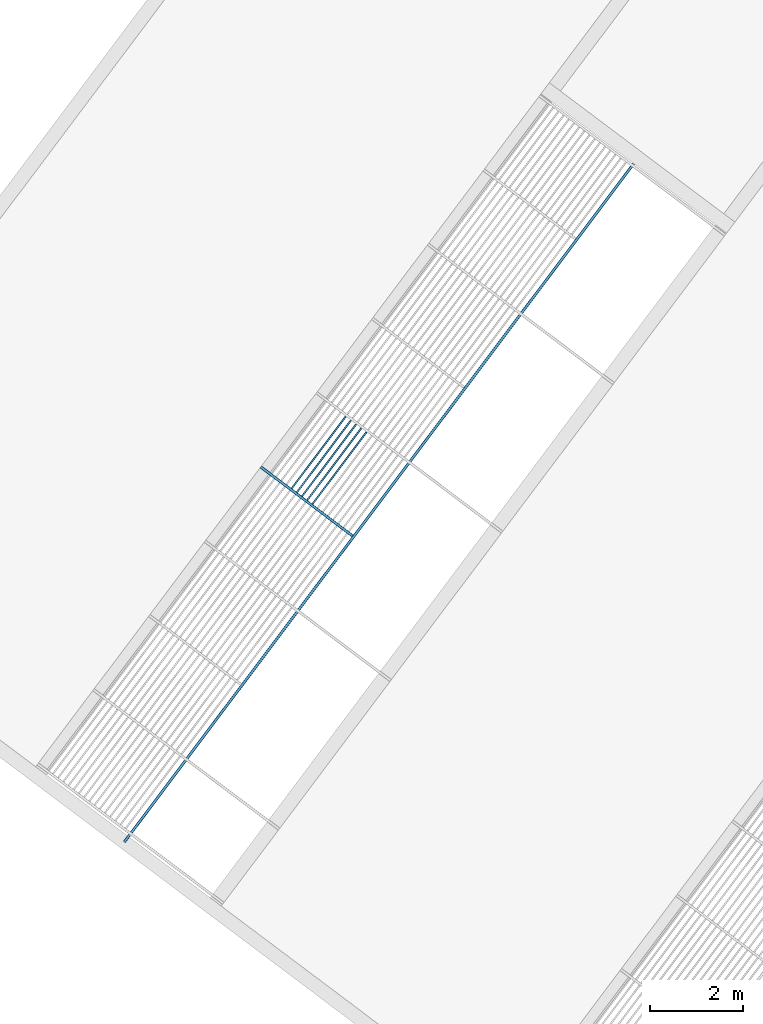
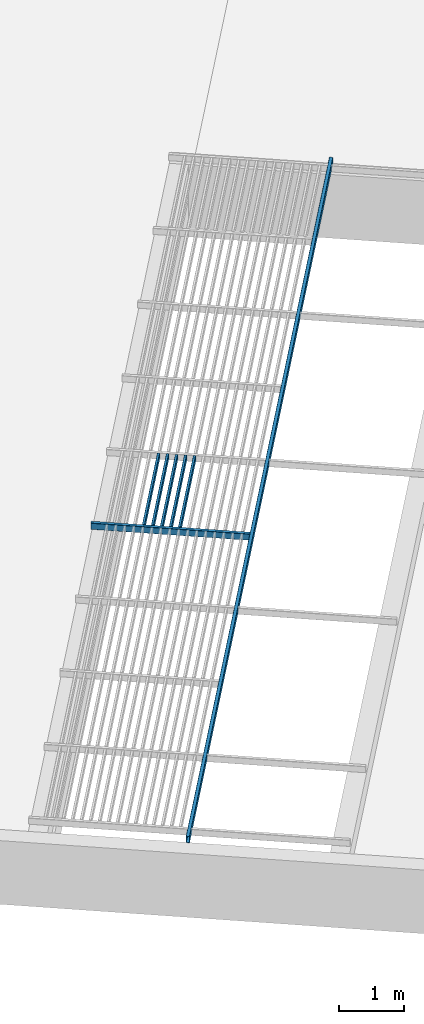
# One storey, part 58 of 95: 7 beams.
"""IFC2X3 building model written with IfcOpenShell, lengths in metres."""

from ifc_helpers import new_model, entity, si_unit, converted_unit, derived_unit, direction, frame, frame_2d, origin, place, context, subcontext, project, spatial, polyline, circle_curve, parameter, trimmed, segment, composite_curve, outline, extrude, material, type_object, element, save


model = new_model("IFC2X3")

# Units and contexts
model_context = context("Model", 3, precision=1e-05, world=origin(), true_north=direction((6.123031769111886e-17, 1.0)))
body_context = subcontext(model_context, "Body", "Model", "MODEL_VIEW")
ifc_project = project(units=[si_unit("LENGTHUNIT", "METRE"), si_unit("AREAUNIT", "SQUARE_METRE"), si_unit("VOLUMEUNIT", "CUBIC_METRE"), converted_unit("PLANEANGLEUNIT", "DEGREE", entity("IfcRatioMeasure", 0.017453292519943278), si_unit("PLANEANGLEUNIT", "RADIAN"), dimensions=[0, 0, 0, 0, 0, 0, 0]), si_unit("MASSUNIT", "GRAM", prefix="KILO"), derived_unit("MASSDENSITYUNIT", [(si_unit("MASSUNIT", "GRAM", prefix="KILO"), 1), (si_unit("LENGTHUNIT", "METRE"), -3)]), derived_unit("IONCONCENTRATIONUNIT", [(si_unit("MASSUNIT", "GRAM", prefix="KILO"), 1), (si_unit("LENGTHUNIT", "METRE"), -3)]), derived_unit("MOMENTOFINERTIAUNIT", [(si_unit("LENGTHUNIT", "METRE"), 4)]), si_unit("TIMEUNIT", "SECOND"), si_unit("FREQUENCYUNIT", "HERTZ"), si_unit("THERMODYNAMICTEMPERATUREUNIT", "DEGREE_CELSIUS"), derived_unit("THERMALTRANSMITTANCEUNIT", [(si_unit("MASSUNIT", "GRAM", prefix="KILO"), 1), (si_unit("THERMODYNAMICTEMPERATUREUNIT", "KELVIN"), -1), (si_unit("TIMEUNIT", "SECOND"), -3)]), derived_unit("THERMALCONDUCTANCEUNIT", [(si_unit("MASSUNIT", "GRAM", prefix="KILO"), 1), (si_unit("THERMODYNAMICTEMPERATUREUNIT", "KELVIN"), -1), (si_unit("TIMEUNIT", "SECOND"), -3), (si_unit("LENGTHUNIT", "METRE"), 1)]), derived_unit("VOLUMETRICFLOWRATEUNIT", [(si_unit("LENGTHUNIT", "METRE"), 3), (si_unit("TIMEUNIT", "SECOND"), -1)]), derived_unit("MASSFLOWRATEUNIT", [(si_unit("MASSUNIT", "GRAM", prefix="KILO"), 1), (si_unit("TIMEUNIT", "SECOND"), -1)]), derived_unit("ROTATIONALFREQUENCYUNIT", [(si_unit("TIMEUNIT", "SECOND"), -1)]), si_unit("ELECTRICCURRENTUNIT", "AMPERE"), si_unit("ELECTRICVOLTAGEUNIT", "VOLT"), si_unit("POWERUNIT", "WATT"), si_unit("FORCEUNIT", "NEWTON", prefix="KILO"), si_unit("ILLUMINANCEUNIT", "LUX"), si_unit("LUMINOUSFLUXUNIT", "LUMEN"), si_unit("LUMINOUSINTENSITYUNIT", "CANDELA"), derived_unit("USERDEFINED", [(si_unit("MASSUNIT", "GRAM", prefix="KILO"), -1), (si_unit("LENGTHUNIT", "METRE"), -2), (si_unit("TIMEUNIT", "SECOND"), 3), (si_unit("LUMINOUSFLUXUNIT", "LUMEN"), 1)]), derived_unit("USERDEFINED", [(si_unit("MASSUNIT", "GRAM", prefix="KILO"), 1), (si_unit("TIMEUNIT", "SECOND"), -3), (si_unit("LENGTHUNIT", "METRE"), 3), (si_unit("ELECTRICCURRENTUNIT", "AMPERE"), -2)]), derived_unit("SOUNDPOWERUNIT", [(si_unit("MASSUNIT", "GRAM", prefix="KILO"), 1), (si_unit("TIMEUNIT", "SECOND"), -3), (si_unit("LENGTHUNIT", "METRE"), 2)]), derived_unit("SOUNDPRESSUREUNIT", [(si_unit("MASSUNIT", "GRAM", prefix="KILO"), 1), (si_unit("LENGTHUNIT", "METRE"), -1), (si_unit("TIMEUNIT", "SECOND"), -2)]), derived_unit("LINEARVELOCITYUNIT", [(si_unit("LENGTHUNIT", "METRE"), 1), (si_unit("TIMEUNIT", "SECOND"), -1)]), si_unit("PRESSUREUNIT", "PASCAL"), derived_unit("USERDEFINED", [(si_unit("MASSUNIT", "GRAM", prefix="KILO"), 1), (si_unit("LENGTHUNIT", "METRE"), -2), (si_unit("TIMEUNIT", "SECOND"), -2)]), derived_unit("LINEARFORCEUNIT", [(si_unit("MASSUNIT", "GRAM", prefix="KILO"), 1), (si_unit("TIMEUNIT", "SECOND"), -2)]), derived_unit("PLANARFORCEUNIT", [(si_unit("MASSUNIT", "GRAM", prefix="KILO"), 1), (si_unit("LENGTHUNIT", "METRE"), -1), (si_unit("TIMEUNIT", "SECOND"), -2)]), derived_unit("SPECIFICHEATCAPACITYUNIT", [(si_unit("THERMODYNAMICTEMPERATUREUNIT", "KELVIN"), -1), (si_unit("LENGTHUNIT", "METRE"), 2), (si_unit("TIMEUNIT", "SECOND"), -2)]), derived_unit("HEATINGVALUEUNIT", [(si_unit("LENGTHUNIT", "METRE"), 2), (si_unit("TIMEUNIT", "SECOND"), -2)]), derived_unit("VAPORPERMEABILITYUNIT", [(si_unit("LENGTHUNIT", "METRE"), -1), (si_unit("TIMEUNIT", "SECOND"), 1)]), derived_unit("DYNAMICVISCOSITYUNIT", [(si_unit("MASSUNIT", "GRAM", prefix="KILO"), 1), (si_unit("TIMEUNIT", "SECOND"), -1), (si_unit("LENGTHUNIT", "METRE"), -1)]), derived_unit("THERMALEXPANSIONCOEFFICIENTUNIT", [(si_unit("THERMODYNAMICTEMPERATUREUNIT", "KELVIN"), -1)]), derived_unit("MODULUSOFELASTICITYUNIT", [(si_unit("MASSUNIT", "GRAM", prefix="KILO"), 1), (si_unit("LENGTHUNIT", "METRE"), -1), (si_unit("TIMEUNIT", "SECOND"), -2)]), derived_unit("ISOTHERMALMOISTURECAPACITYUNIT", [(si_unit("LENGTHUNIT", "METRE"), 3), (si_unit("MASSUNIT", "GRAM", prefix="KILO"), -1)]), derived_unit("MOISTUREDIFFUSIVITYUNIT", [(si_unit("TIMEUNIT", "SECOND"), -1), (si_unit("LENGTHUNIT", "METRE"), 2)])], contexts=[model_context])

# Site, building, storey
site_placement = place(None, origin())
site = spatial("IfcSite", under=ifc_project, at=site_placement, Name="Default", CompositionType="ELEMENT")
building_placement = place(site_placement, frame((0.0, 0.0, 235.0), z_axis=(0.0, 0.0, 1.0), x_axis=(-0.7996477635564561, 0.6004693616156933, 0.0)))
building = spatial("IfcBuilding", under=site, at=building_placement, CompositionType="ELEMENT")
storey_placement = place(building_placement, frame((0.0, 0.0, 3.400000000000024)))
storey = spatial("IfcBuildingStorey", under=building, at=storey_placement, Name="PC- Coberta STR", CompositionType="ELEMENT", Elevation=3.400000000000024)

# Beams
ifc_material = material(Name="_Acer- STR")
beam_type_1 = type_object("IfcBeamType", Name="STR- V- Acer- RHS- Rectangular- T1:120x60RHS", PredefinedType="NOTDEFINED")
beam_1_placement = place(storey_placement, frame((64.21355240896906, -36.615191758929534, 0.4984047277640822), z_axis=(0.0, 0.0, 1.0), x_axis=(0.0, -1.0, 0.0)))
element("IfcBeam", 1, at=beam_1_placement, inside=storey, type_object=beam_type_1, material=ifc_material, Name="STR- V- Acer- RHS- Rectangular- T1:120x60RHS", ObjectType="STR- V- Acer- RHS- Rectangular- T1:120x60RHS", context=body_context, shape_type="SweptSolid", body=[
    extrude(outline(composite_curve([segment(trimmed(circle_curve(frame_2d((0.05200000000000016, -0.022000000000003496), x_axis=(1.0, 0.0)), 0.008), [parameter(270.00000000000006)], [parameter(359.99999999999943)], True, "PARAMETER"), True, "CONTINUOUS"), segment(polyline([(0.05999999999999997, -0.022000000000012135), (0.05999999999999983, 0.021999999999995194)]), True, "CONTINUOUS"), segment(trimmed(circle_curve(frame_2d((0.05200000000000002, 0.021999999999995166), x_axis=(0.0, 1.0)), 0.008), [parameter(269.9999999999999)], [parameter(0.0)], True, "PARAMETER"), True, "CONTINUOUS"), segment(polyline([(0.05199999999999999, 0.029999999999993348), (-0.052000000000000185, 0.029999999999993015)]), True, "CONTINUOUS"), segment(trimmed(circle_curve(frame_2d((-0.05200000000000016, 0.021999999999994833), x_axis=(-1.0, 0.0)), 0.008), [parameter(269.9999999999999)], [parameter(0.0)], True, "PARAMETER"), True, "CONTINUOUS"), segment(polyline([(-0.05999999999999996, 0.021999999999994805), (-0.059999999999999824, -0.022000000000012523)]), True, "CONTINUOUS"), segment(trimmed(circle_curve(frame_2d((-0.05200000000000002, -0.02200000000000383), x_axis=(0.0, -1.0)), 0.008), [parameter(269.9999999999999)], [parameter(0.0)], True, "PARAMETER"), True, "CONTINUOUS"), segment(polyline([(-0.05199999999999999, -0.03000000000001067), (0.052000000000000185, -0.030000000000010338)]), True, "CONTINUOUS")], self_intersect=False), holes=[composite_curve([segment(polyline([(0.056000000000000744, 0.02199999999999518), (0.05600000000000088, -0.022000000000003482)]), True, "CONTINUOUS"), segment(trimmed(circle_curve(frame_2d((0.0520000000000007, -0.022000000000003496), x_axis=(0.0, -1.0)), 0.004), [parameter(0.0)], [parameter(90.00000000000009)], True, "PARAMETER"), False, "CONTINUOUS"), segment(polyline([(0.05200000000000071, -0.02600000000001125), (-0.05199999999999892, -0.026000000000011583)]), True, "CONTINUOUS"), segment(trimmed(circle_curve(frame_2d((-0.051999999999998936, -0.02200000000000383), x_axis=(-1.0, 0.0)), 0.004), [parameter(5.088887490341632e-13)], [parameter(90.00000000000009)], True, "PARAMETER"), False, "CONTINUOUS"), segment(polyline([(-0.055999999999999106, -0.022000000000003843), (-0.055999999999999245, 0.02199999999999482)]), True, "CONTINUOUS"), segment(trimmed(circle_curve(frame_2d((-0.051999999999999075, 0.021999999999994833), x_axis=(0.0, 1.0)), 0.004), [parameter(0.0)], [parameter(90.00000000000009)], True, "PARAMETER"), False, "CONTINUOUS"), segment(polyline([(-0.05199999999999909, 0.025999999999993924), (0.052000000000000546, 0.025999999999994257)]), True, "CONTINUOUS"), segment(trimmed(circle_curve(frame_2d((0.05200000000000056, 0.021999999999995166), x_axis=(1.0, 0.0)), 0.004), [parameter(1.0177774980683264e-13)], [parameter(90.00000000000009)], True, "PARAMETER"), False, "CONTINUOUS")], self_intersect=False)]), frame((-18.424999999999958, 0.0315952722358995, 0.06159527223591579), z_axis=(1.0, 0.0, 0.0), x_axis=(0.0, 0.0, 1.0)), (0.0, 0.0, 1.0), 18.42499999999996),
])
beam_2_placement = place(storey_placement, frame((64.27514768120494, -26.446787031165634, 0.49840472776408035), z_axis=(0.0, 0.0, 1.0), x_axis=(-1.0, 0.0, 0.0)))
element("IfcBeam", 2, at=beam_2_placement, inside=storey, type_object=beam_type_1, material=ifc_material, Name="STR- V- Acer- RHS- Rectangular- T1:120x60RHS", ObjectType="STR- V- Acer- RHS- Rectangular- T1:120x60RHS", context=body_context, shape_type="SweptSolid", body=[
    extrude(outline(composite_curve([segment(trimmed(circle_curve(frame_2d((-0.021999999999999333, -0.05199999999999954), x_axis=(1.0, 0.0)), 0.008), [parameter(180.0000000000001)], [parameter(269.99999999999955)], True, "PARAMETER"), True, "CONTINUOUS"), segment(polyline([(-0.022000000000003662, -0.05999999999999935), (0.021999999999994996, -0.05999999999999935)]), True, "CONTINUOUS"), segment(trimmed(circle_curve(frame_2d((0.021999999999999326, -0.05199999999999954), x_axis=(1.0, 0.0)), 0.008), [parameter(269.99999999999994)], [parameter(5.088887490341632e-14)], True, "PARAMETER"), True, "CONTINUOUS"), segment(polyline([(0.029999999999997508, -0.05199999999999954), (0.029999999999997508, 0.052000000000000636)]), True, "CONTINUOUS"), segment(trimmed(circle_curve(frame_2d((0.021999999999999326, 0.052000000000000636), x_axis=(1.0, 0.0)), 0.008), [parameter(359.99999999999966)], [parameter(89.99999999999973)], True, "PARAMETER"), True, "CONTINUOUS"), segment(polyline([(0.021999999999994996, 0.06000000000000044), (-0.022000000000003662, 0.06000000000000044)]), True, "CONTINUOUS"), segment(trimmed(circle_curve(frame_2d((-0.021999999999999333, 0.052000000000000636), x_axis=(1.0, 0.0)), 0.008), [parameter(90.00000000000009)], [parameter(180.00000000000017)], True, "PARAMETER"), True, "CONTINUOUS"), segment(polyline([(-0.030000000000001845, 0.052000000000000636), (-0.030000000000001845, -0.05199999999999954)]), True, "CONTINUOUS")], self_intersect=False), holes=[composite_curve([segment(polyline([(0.021999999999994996, -0.056000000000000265), (-0.022000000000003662, -0.056000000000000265)]), True, "CONTINUOUS"), segment(trimmed(circle_curve(frame_2d((-0.021999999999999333, -0.05200000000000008), x_axis=(1.0, 0.0)), 0.004), [parameter(179.99999999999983)], [parameter(269.9999999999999)], True, "PARAMETER"), False, "CONTINUOUS"), segment(polyline([(-0.026000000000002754, -0.05200000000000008), (-0.026000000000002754, 0.051999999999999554)]), True, "CONTINUOUS"), segment(trimmed(circle_curve(frame_2d((-0.021999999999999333, 0.051999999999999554), x_axis=(1.0, 0.0)), 0.004), [parameter(90.00000000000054)], [parameter(180.00000000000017)], True, "PARAMETER"), False, "CONTINUOUS"), segment(polyline([(-0.022000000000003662, 0.055999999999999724), (0.021999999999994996, 0.055999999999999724)]), True, "CONTINUOUS"), segment(trimmed(circle_curve(frame_2d((0.021999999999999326, 0.051999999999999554), x_axis=(1.0, 0.0)), 0.004), [parameter(0.0)], [parameter(90.00000000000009)], True, "PARAMETER"), False, "CONTINUOUS"), segment(polyline([(0.02599999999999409, 0.051999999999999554), (0.02599999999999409, -0.05200000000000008)]), True, "CONTINUOUS"), segment(trimmed(circle_curve(frame_2d((0.021999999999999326, -0.05200000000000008), x_axis=(1.0, 0.0)), 0.004), [parameter(270.00000000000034)], [parameter(3.5622212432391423e-13)], True, "PARAMETER"), False, "CONTINUOUS")], self_intersect=False)]), frame((-2.470000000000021, -0.03159527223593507, 0.061595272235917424), z_axis=(1.0, 0.0, 0.0), x_axis=(0.0, -1.0, 0.0)), (0.0, 0.0, 1.0), 2.4700000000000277),
])
beam_type_2 = type_object("IfcBeamType", Name="STR- V- Acer- RHS- Rectangular- T1:120x40RHS -", PredefinedType="NOTDEFINED")
beam_3_placement = place(storey_placement, frame((65.91355240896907, -28.385191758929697, 0.4984047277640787), z_axis=(0.0, 0.0, 1.0), x_axis=(0.0, -1.0, 0.0)))
element("IfcBeam", 3, at=beam_3_placement, inside=storey, type_object=beam_type_2, material=ifc_material, Name="STR- V- Acer- RHS- Rectangular- T1:120x40RHS -", ObjectType="STR- V- Acer- RHS- Rectangular- T1:120x40RHS -", context=body_context, shape_type="SweptSolid", body=[
    extrude(outline(composite_curve([segment(trimmed(circle_curve(frame_2d((-0.013999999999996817, -0.053999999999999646), x_axis=(1.0, 0.0)), 0.006), [parameter(180.0000000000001)], [parameter(269.99999999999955)], True, "PARAMETER"), True, "CONTINUOUS"), segment(polyline([(-0.013999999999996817, -0.0599999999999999), (0.013999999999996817, -0.0599999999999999)]), True, "CONTINUOUS"), segment(trimmed(circle_curve(frame_2d((0.01400000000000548, -0.053999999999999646), x_axis=(1.0, 0.0)), 0.006), [parameter(269.99999999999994)], [parameter(1.0177774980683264e-13)], True, "PARAMETER"), True, "CONTINUOUS"), segment(polyline([(0.020000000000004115, -0.053999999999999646), (0.020000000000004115, 0.05400000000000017)]), True, "CONTINUOUS"), segment(trimmed(circle_curve(frame_2d((0.01400000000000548, 0.05400000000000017), x_axis=(1.0, 0.0)), 0.006), [parameter(359.9999999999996)], [parameter(89.99999999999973)], True, "PARAMETER"), True, "CONTINUOUS"), segment(polyline([(0.013999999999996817, 0.059999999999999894), (-0.013999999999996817, 0.059999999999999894)]), True, "CONTINUOUS"), segment(trimmed(circle_curve(frame_2d((-0.013999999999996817, 0.05400000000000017), x_axis=(1.0, 0.0)), 0.006), [parameter(90.00000000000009)], [parameter(180.00000000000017)], True, "PARAMETER"), True, "CONTINUOUS"), segment(polyline([(-0.019999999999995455, 0.05400000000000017), (-0.019999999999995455, -0.05400000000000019)]), True, "CONTINUOUS")], self_intersect=False), holes=[composite_curve([segment(polyline([(0.013999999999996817, -0.05700000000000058), (-0.013999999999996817, -0.05700000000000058)]), True, "CONTINUOUS"), segment(trimmed(circle_curve(frame_2d((-0.013999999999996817, -0.05400000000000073), x_axis=(1.0, 0.0)), 0.003), [parameter(179.99999999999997)], [parameter(269.9999999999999)], True, "PARAMETER"), False, "CONTINUOUS"), segment(polyline([(-0.01699999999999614, -0.05400000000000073), (-0.01699999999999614, 0.05399999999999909)]), True, "CONTINUOUS"), segment(trimmed(circle_curve(frame_2d((-0.013999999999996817, 0.05399999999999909), x_axis=(1.0, 0.0)), 0.003), [parameter(90.00000000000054)], [parameter(180.0000000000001)], True, "PARAMETER"), False, "CONTINUOUS"), segment(polyline([(-0.013999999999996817, 0.056999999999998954), (0.013999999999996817, 0.056999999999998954)]), True, "CONTINUOUS"), segment(trimmed(circle_curve(frame_2d((0.01400000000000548, 0.05399999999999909), x_axis=(1.0, 0.0)), 0.003), [parameter(0.0)], [parameter(90.00000000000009)], True, "PARAMETER"), False, "CONTINUOUS"), segment(polyline([(0.017000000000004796, 0.05399999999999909), (0.017000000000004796, -0.05400000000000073)]), True, "CONTINUOUS"), segment(trimmed(circle_curve(frame_2d((0.01400000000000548, -0.05400000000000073), x_axis=(1.0, 0.0)), 0.003), [parameter(270.00000000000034)], [parameter(3.053332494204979e-13)], True, "PARAMETER"), False, "CONTINUOUS")], self_intersect=False)]), frame((-1.9399999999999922, 0.021595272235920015, 0.06159527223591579), z_axis=(1.0, 0.0, 0.0), x_axis=(0.0, -1.0, 0.0)), (0.0, 0.0, 1.0), 1.9399999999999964),
])
beam_4_placement = place(storey_placement, frame((65.77355240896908, -28.385191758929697, 0.4984047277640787), z_axis=(0.0, 0.0, 1.0), x_axis=(0.0, -1.0, 0.0)))
element("IfcBeam", 4, at=beam_4_placement, inside=storey, type_object=beam_type_2, material=ifc_material, Name="STR- V- Acer- RHS- Rectangular- T1:120x40RHS -", ObjectType="STR- V- Acer- RHS- Rectangular- T1:120x40RHS -", context=body_context, shape_type="SweptSolid", body=[
    extrude(outline(composite_curve([segment(trimmed(circle_curve(frame_2d((-0.014000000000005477, -0.053999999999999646), x_axis=(1.0, 0.0)), 0.006), [parameter(180.0000000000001)], [parameter(269.99999999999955)], True, "PARAMETER"), True, "CONTINUOUS"), segment(polyline([(-0.014000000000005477, -0.0599999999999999), (0.013999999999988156, -0.0599999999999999)]), True, "CONTINUOUS"), segment(trimmed(circle_curve(frame_2d((0.013999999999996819, -0.053999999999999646), x_axis=(1.0, 0.0)), 0.006), [parameter(269.99999999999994)], [parameter(1.0177774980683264e-13)], True, "PARAMETER"), True, "CONTINUOUS"), segment(polyline([(0.019999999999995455, -0.053999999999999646), (0.019999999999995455, 0.05400000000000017)]), True, "CONTINUOUS"), segment(trimmed(circle_curve(frame_2d((0.013999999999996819, 0.05400000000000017), x_axis=(1.0, 0.0)), 0.006), [parameter(359.9999999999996)], [parameter(89.99999999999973)], True, "PARAMETER"), True, "CONTINUOUS"), segment(polyline([(0.013999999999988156, 0.059999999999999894), (-0.014000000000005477, 0.059999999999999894)]), True, "CONTINUOUS"), segment(trimmed(circle_curve(frame_2d((-0.014000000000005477, 0.05400000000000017), x_axis=(1.0, 0.0)), 0.006), [parameter(90.00000000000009)], [parameter(180.00000000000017)], True, "PARAMETER"), True, "CONTINUOUS"), segment(polyline([(-0.020000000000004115, 0.05400000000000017), (-0.020000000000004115, -0.05400000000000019)]), True, "CONTINUOUS")], self_intersect=False), holes=[composite_curve([segment(polyline([(0.013999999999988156, -0.05700000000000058), (-0.014000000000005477, -0.05700000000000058)]), True, "CONTINUOUS"), segment(trimmed(circle_curve(frame_2d((-0.014000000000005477, -0.05400000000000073), x_axis=(1.0, 0.0)), 0.003), [parameter(179.99999999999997)], [parameter(269.9999999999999)], True, "PARAMETER"), False, "CONTINUOUS"), segment(polyline([(-0.0170000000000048, -0.05400000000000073), (-0.0170000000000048, 0.05399999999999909)]), True, "CONTINUOUS"), segment(trimmed(circle_curve(frame_2d((-0.014000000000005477, 0.05399999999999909), x_axis=(1.0, 0.0)), 0.003), [parameter(90.00000000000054)], [parameter(180.0000000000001)], True, "PARAMETER"), False, "CONTINUOUS"), segment(polyline([(-0.014000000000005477, 0.056999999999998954), (0.013999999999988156, 0.056999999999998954)]), True, "CONTINUOUS"), segment(trimmed(circle_curve(frame_2d((0.013999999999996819, 0.05399999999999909), x_axis=(1.0, 0.0)), 0.003), [parameter(0.0)], [parameter(90.00000000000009)], True, "PARAMETER"), False, "CONTINUOUS"), segment(polyline([(0.016999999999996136, 0.05399999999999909), (0.016999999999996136, -0.05400000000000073)]), True, "CONTINUOUS"), segment(trimmed(circle_curve(frame_2d((0.013999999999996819, -0.05400000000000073), x_axis=(1.0, 0.0)), 0.003), [parameter(270.00000000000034)], [parameter(3.053332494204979e-13)], True, "PARAMETER"), False, "CONTINUOUS")], self_intersect=False)]), frame((-1.9399999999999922, 0.02159527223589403, 0.06159527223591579), z_axis=(1.0, 0.0, 0.0), x_axis=(0.0, -1.0, 0.0)), (0.0, 0.0, 1.0), 1.9399999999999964),
])
beam_5_placement = place(storey_placement, frame((65.63355240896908, -28.385191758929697, 0.4984047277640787), z_axis=(0.0, 0.0, 1.0), x_axis=(0.0, -1.0, 0.0)))
element("IfcBeam", 5, at=beam_5_placement, inside=storey, type_object=beam_type_2, material=ifc_material, Name="STR- V- Acer- RHS- Rectangular- T1:120x40RHS -", ObjectType="STR- V- Acer- RHS- Rectangular- T1:120x40RHS -", context=body_context, shape_type="SweptSolid", body=[
    extrude(outline(composite_curve([segment(trimmed(circle_curve(frame_2d((-0.01400000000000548, -0.053999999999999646), x_axis=(1.0, 0.0)), 0.006), [parameter(180.0000000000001)], [parameter(269.99999999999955)], True, "PARAMETER"), True, "CONTINUOUS"), segment(polyline([(-0.01400000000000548, -0.0599999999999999), (0.013999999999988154, -0.0599999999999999)]), True, "CONTINUOUS"), segment(trimmed(circle_curve(frame_2d((0.013999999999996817, -0.053999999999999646), x_axis=(1.0, 0.0)), 0.006), [parameter(269.99999999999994)], [parameter(1.0177774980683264e-13)], True, "PARAMETER"), True, "CONTINUOUS"), segment(polyline([(0.019999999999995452, -0.053999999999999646), (0.019999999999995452, 0.05400000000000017)]), True, "CONTINUOUS"), segment(trimmed(circle_curve(frame_2d((0.013999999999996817, 0.05400000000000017), x_axis=(1.0, 0.0)), 0.006), [parameter(359.9999999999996)], [parameter(89.99999999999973)], True, "PARAMETER"), True, "CONTINUOUS"), segment(polyline([(0.013999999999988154, 0.059999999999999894), (-0.01400000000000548, 0.059999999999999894)]), True, "CONTINUOUS"), segment(trimmed(circle_curve(frame_2d((-0.01400000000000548, 0.05400000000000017), x_axis=(1.0, 0.0)), 0.006), [parameter(90.00000000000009)], [parameter(180.00000000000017)], True, "PARAMETER"), True, "CONTINUOUS"), segment(polyline([(-0.02000000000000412, 0.05400000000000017), (-0.02000000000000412, -0.05400000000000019)]), True, "CONTINUOUS")], self_intersect=False), holes=[composite_curve([segment(polyline([(0.013999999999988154, -0.05700000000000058), (-0.01400000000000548, -0.05700000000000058)]), True, "CONTINUOUS"), segment(trimmed(circle_curve(frame_2d((-0.01400000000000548, -0.05400000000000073), x_axis=(1.0, 0.0)), 0.003), [parameter(179.99999999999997)], [parameter(269.9999999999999)], True, "PARAMETER"), False, "CONTINUOUS"), segment(polyline([(-0.017000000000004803, -0.05400000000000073), (-0.017000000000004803, 0.05399999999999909)]), True, "CONTINUOUS"), segment(trimmed(circle_curve(frame_2d((-0.01400000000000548, 0.05399999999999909), x_axis=(1.0, 0.0)), 0.003), [parameter(90.00000000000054)], [parameter(180.0000000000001)], True, "PARAMETER"), False, "CONTINUOUS"), segment(polyline([(-0.01400000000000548, 0.056999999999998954), (0.013999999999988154, 0.056999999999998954)]), True, "CONTINUOUS"), segment(trimmed(circle_curve(frame_2d((0.013999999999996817, 0.05399999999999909), x_axis=(1.0, 0.0)), 0.003), [parameter(0.0)], [parameter(90.00000000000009)], True, "PARAMETER"), False, "CONTINUOUS"), segment(polyline([(0.016999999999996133, 0.05399999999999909), (0.016999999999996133, -0.05400000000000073)]), True, "CONTINUOUS"), segment(trimmed(circle_curve(frame_2d((0.013999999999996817, -0.05400000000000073), x_axis=(1.0, 0.0)), 0.003), [parameter(270.00000000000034)], [parameter(3.053332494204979e-13)], True, "PARAMETER"), False, "CONTINUOUS")], self_intersect=False)]), frame((-1.9399999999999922, 0.02159527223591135, 0.06159527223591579), z_axis=(1.0, 0.0, 0.0), x_axis=(0.0, -1.0, 0.0)), (0.0, 0.0, 1.0), 1.9399999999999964),
])
beam_6_placement = place(storey_placement, frame((65.49355240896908, -28.385191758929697, 0.4984047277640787), z_axis=(0.0, 0.0, 1.0), x_axis=(0.0, -1.0, 0.0)))
element("IfcBeam", 6, at=beam_6_placement, inside=storey, type_object=beam_type_2, material=ifc_material, Name="STR- V- Acer- RHS- Rectangular- T1:120x40RHS -", ObjectType="STR- V- Acer- RHS- Rectangular- T1:120x40RHS -", context=body_context, shape_type="SweptSolid", body=[
    extrude(outline(composite_curve([segment(trimmed(circle_curve(frame_2d((-0.014000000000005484, -0.053999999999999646), x_axis=(1.0, 0.0)), 0.006), [parameter(180.0000000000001)], [parameter(269.99999999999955)], True, "PARAMETER"), True, "CONTINUOUS"), segment(polyline([(-0.014000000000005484, -0.0599999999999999), (0.013999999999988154, -0.0599999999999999)]), True, "CONTINUOUS"), segment(trimmed(circle_curve(frame_2d((0.013999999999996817, -0.053999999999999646), x_axis=(1.0, 0.0)), 0.006), [parameter(269.99999999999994)], [parameter(1.0177774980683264e-13)], True, "PARAMETER"), True, "CONTINUOUS"), segment(polyline([(0.019999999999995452, -0.053999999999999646), (0.019999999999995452, 0.05400000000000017)]), True, "CONTINUOUS"), segment(trimmed(circle_curve(frame_2d((0.013999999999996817, 0.05400000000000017), x_axis=(1.0, 0.0)), 0.006), [parameter(359.9999999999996)], [parameter(89.99999999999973)], True, "PARAMETER"), True, "CONTINUOUS"), segment(polyline([(0.013999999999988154, 0.059999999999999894), (-0.014000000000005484, 0.059999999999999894)]), True, "CONTINUOUS"), segment(trimmed(circle_curve(frame_2d((-0.014000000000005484, 0.05400000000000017), x_axis=(1.0, 0.0)), 0.006), [parameter(90.00000000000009)], [parameter(180.00000000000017)], True, "PARAMETER"), True, "CONTINUOUS"), segment(polyline([(-0.020000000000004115, 0.05400000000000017), (-0.020000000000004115, -0.05400000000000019)]), True, "CONTINUOUS")], self_intersect=False), holes=[composite_curve([segment(polyline([(0.013999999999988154, -0.05700000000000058), (-0.014000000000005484, -0.05700000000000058)]), True, "CONTINUOUS"), segment(trimmed(circle_curve(frame_2d((-0.014000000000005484, -0.05400000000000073), x_axis=(1.0, 0.0)), 0.003), [parameter(179.99999999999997)], [parameter(269.9999999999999)], True, "PARAMETER"), False, "CONTINUOUS"), segment(polyline([(-0.0170000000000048, -0.05400000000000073), (-0.0170000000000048, 0.05399999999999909)]), True, "CONTINUOUS"), segment(trimmed(circle_curve(frame_2d((-0.014000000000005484, 0.05399999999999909), x_axis=(1.0, 0.0)), 0.003), [parameter(90.00000000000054)], [parameter(180.0000000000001)], True, "PARAMETER"), False, "CONTINUOUS"), segment(polyline([(-0.014000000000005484, 0.056999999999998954), (0.013999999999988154, 0.056999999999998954)]), True, "CONTINUOUS"), segment(trimmed(circle_curve(frame_2d((0.013999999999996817, 0.05399999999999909), x_axis=(1.0, 0.0)), 0.003), [parameter(0.0)], [parameter(90.00000000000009)], True, "PARAMETER"), False, "CONTINUOUS"), segment(polyline([(0.016999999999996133, 0.05399999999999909), (0.016999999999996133, -0.05400000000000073)]), True, "CONTINUOUS"), segment(trimmed(circle_curve(frame_2d((0.013999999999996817, -0.05400000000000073), x_axis=(1.0, 0.0)), 0.003), [parameter(270.00000000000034)], [parameter(3.053332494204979e-13)], True, "PARAMETER"), False, "CONTINUOUS")], self_intersect=False)]), frame((-1.9399999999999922, 0.021595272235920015, 0.06159527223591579), z_axis=(1.0, 0.0, 0.0), x_axis=(0.0, -1.0, 0.0)), (0.0, 0.0, 1.0), 1.9399999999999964),
])
beam_7_placement = place(storey_placement, frame((65.35355240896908, -28.385191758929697, 0.4984047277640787), z_axis=(0.0, 0.0, 1.0), x_axis=(0.0, -1.0, 0.0)))
element("IfcBeam", 7, at=beam_7_placement, inside=storey, type_object=beam_type_2, material=ifc_material, Name="STR- V- Acer- RHS- Rectangular- T1:120x40RHS -", ObjectType="STR- V- Acer- RHS- Rectangular- T1:120x40RHS -", context=body_context, shape_type="SweptSolid", body=[
    extrude(outline(composite_curve([segment(trimmed(circle_curve(frame_2d((-0.01400000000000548, -0.053999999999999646), x_axis=(1.0, 0.0)), 0.006), [parameter(180.0000000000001)], [parameter(269.99999999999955)], True, "PARAMETER"), True, "CONTINUOUS"), segment(polyline([(-0.01400000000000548, -0.0599999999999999), (0.013999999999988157, -0.0599999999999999)]), True, "CONTINUOUS"), segment(trimmed(circle_curve(frame_2d((0.013999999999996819, -0.053999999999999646), x_axis=(1.0, 0.0)), 0.006), [parameter(269.99999999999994)], [parameter(1.0177774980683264e-13)], True, "PARAMETER"), True, "CONTINUOUS"), segment(polyline([(0.019999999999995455, -0.053999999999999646), (0.019999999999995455, 0.05400000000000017)]), True, "CONTINUOUS"), segment(trimmed(circle_curve(frame_2d((0.013999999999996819, 0.05400000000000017), x_axis=(1.0, 0.0)), 0.006), [parameter(359.9999999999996)], [parameter(89.99999999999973)], True, "PARAMETER"), True, "CONTINUOUS"), segment(polyline([(0.013999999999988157, 0.059999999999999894), (-0.01400000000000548, 0.059999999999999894)]), True, "CONTINUOUS"), segment(trimmed(circle_curve(frame_2d((-0.01400000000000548, 0.05400000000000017), x_axis=(1.0, 0.0)), 0.006), [parameter(90.00000000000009)], [parameter(180.00000000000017)], True, "PARAMETER"), True, "CONTINUOUS"), segment(polyline([(-0.02000000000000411, 0.05400000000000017), (-0.02000000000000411, -0.05400000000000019)]), True, "CONTINUOUS")], self_intersect=False), holes=[composite_curve([segment(polyline([(0.013999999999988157, -0.05700000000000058), (-0.01400000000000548, -0.05700000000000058)]), True, "CONTINUOUS"), segment(trimmed(circle_curve(frame_2d((-0.01400000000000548, -0.05400000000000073), x_axis=(1.0, 0.0)), 0.003), [parameter(179.99999999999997)], [parameter(269.9999999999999)], True, "PARAMETER"), False, "CONTINUOUS"), segment(polyline([(-0.017000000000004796, -0.05400000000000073), (-0.017000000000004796, 0.05399999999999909)]), True, "CONTINUOUS"), segment(trimmed(circle_curve(frame_2d((-0.01400000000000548, 0.05399999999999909), x_axis=(1.0, 0.0)), 0.003), [parameter(90.00000000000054)], [parameter(180.0000000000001)], True, "PARAMETER"), False, "CONTINUOUS"), segment(polyline([(-0.01400000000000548, 0.056999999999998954), (0.013999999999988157, 0.056999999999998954)]), True, "CONTINUOUS"), segment(trimmed(circle_curve(frame_2d((0.013999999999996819, 0.05399999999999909), x_axis=(1.0, 0.0)), 0.003), [parameter(0.0)], [parameter(90.00000000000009)], True, "PARAMETER"), False, "CONTINUOUS"), segment(polyline([(0.016999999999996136, 0.05399999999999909), (0.016999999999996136, -0.05400000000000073)]), True, "CONTINUOUS"), segment(trimmed(circle_curve(frame_2d((0.013999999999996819, -0.05400000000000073), x_axis=(1.0, 0.0)), 0.003), [parameter(270.00000000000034)], [parameter(3.053332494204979e-13)], True, "PARAMETER"), False, "CONTINUOUS")], self_intersect=False)]), frame((-1.9399999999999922, 0.021595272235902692, 0.06159527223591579), z_axis=(1.0, 0.0, 0.0), x_axis=(0.0, -1.0, 0.0)), (0.0, 0.0, 1.0), 1.9399999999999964),
])

save(model, "model.ifc")
